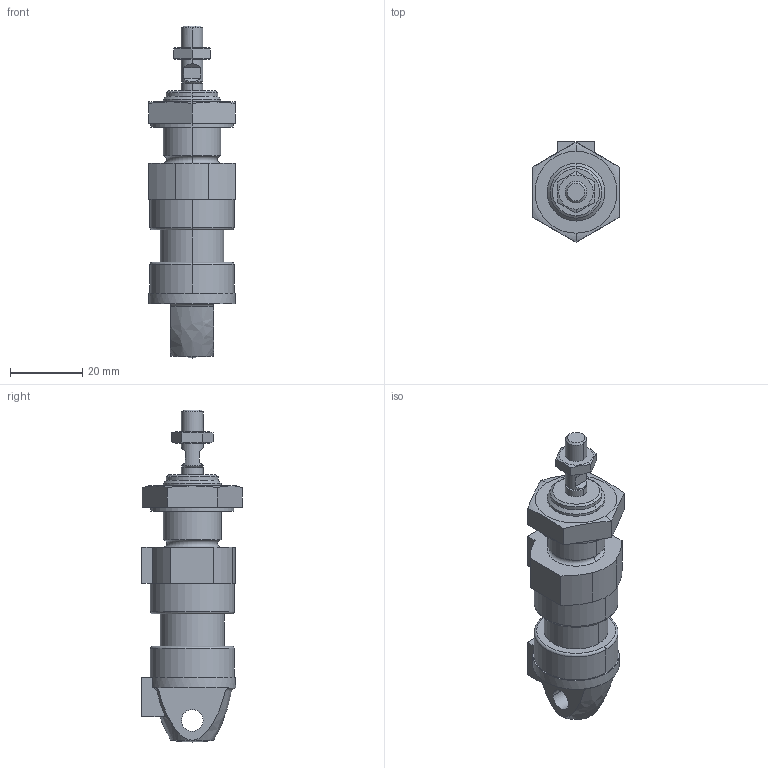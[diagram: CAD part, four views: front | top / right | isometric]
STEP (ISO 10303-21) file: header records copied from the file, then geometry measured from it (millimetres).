
FILE_DESCRIPTION((''),'2;1');
FILE_NAME('1321601000_ASM','2017-09-14T',('hug2hc'),(''),'CREO PARAMETRIC BY PTC INC, 2016260','CREO PARAMETRIC BY PTC INC, 2016260','');
FILE_SCHEMA(('CONFIG_CONTROL_DESIGN'));
Length unit declared in the file: millimetre
Products named in the file (5): 1321601000-A; 1321601000-C; 1321601000-B; 3330316000; 1321601000_ASM
Assembly tree (4 placements, depth 2):
  1321601000_ASM
    1321601000-A
    1321601000-C
    1321601000-B
    3330316000
Bounding box: 24 x 27.86 x 92 mm (x, y, z)
Volume: 23278.6 mm3; surface area: 11909.7 mm2
Topology: 4 solids, 4 shells, 129 faces, 290 edges, 175 vertices
Faces by surface type: plane 48, cylinder 38, cone 28, torus 11, bspline 2, sphere 2
Entity records: 3986 total; most frequent: CARTESIAN_POINT 971, DIRECTION 646, ORIENTED_EDGE 568, EDGE_CURVE 284, AXIS2_PLACEMENT_3D 264, VERTEX_POINT 175, EDGE_LOOP 147, FACE_OUTER_BOUND 129
